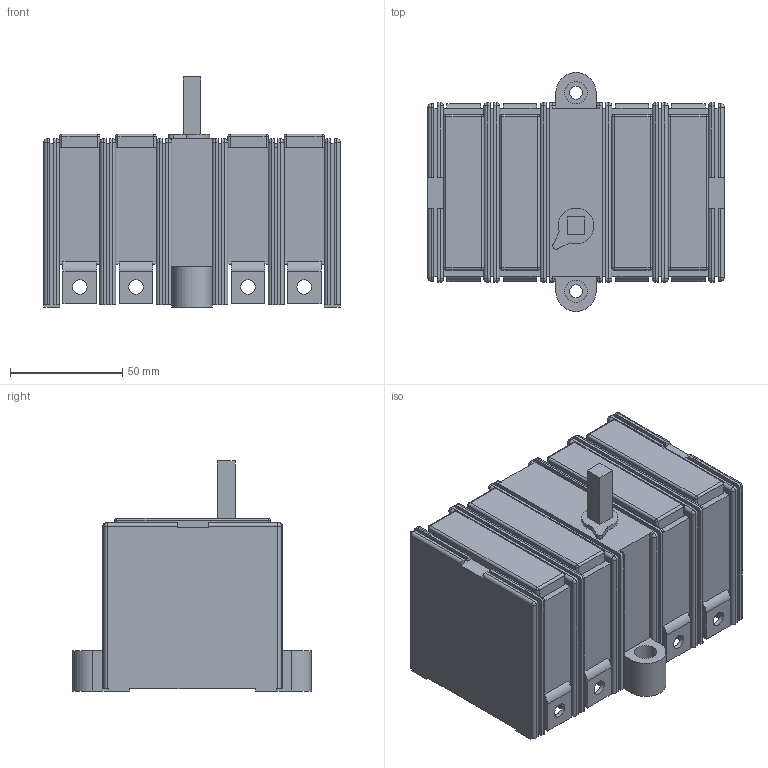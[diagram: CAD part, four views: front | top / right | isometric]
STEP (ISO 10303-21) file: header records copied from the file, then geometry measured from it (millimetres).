
FILE_DESCRIPTION(/* description */ (''),/* implementation_level */ '2;1');
FILE_NAME(/* name */ 'RA100 P3 NC, RA100 P4 C.stp',/* time_stamp */ '2021-08-17T14:37:01+02:00',/* author */ (''),/* organization */ (''),/* preprocessor_version */ 'ST-DEVELOPER v18.1',/* originating_system */ 'SIEMENS PLM Software NX 1965',/* authorisation */ '');
FILE_SCHEMA (('AUTOMOTIVE_DESIGN { 1 0 10303 214 3 1 1 1 }'));
Length unit declared in the file: millimetre
Products named in the file (1): RA100 P3 NC, RA100 P4 C
Bounding box: 132 x 106.51 x 102.5 mm (x, y, z)
Volume: 665236.2 mm3; surface area: 79037.4 mm2
Topology: 1 solids, 1 shells, 391 faces, 1057 edges, 632 vertices
Faces by surface type: plane 221, cylinder 130, sphere 39, bspline 1
Full cylindrical faces by diameter (mm): 5.8 x2, 6.5 x8, 10 x2
Entity records: 11803 total; most frequent: CARTESIAN_POINT 2077, DIRECTION 2036, ORIENTED_EDGE 2006, EDGE_CURVE 1003, LINE 738, VECTOR 738, AXIS2_PLACEMENT_3D 649, VERTEX_POINT 630
